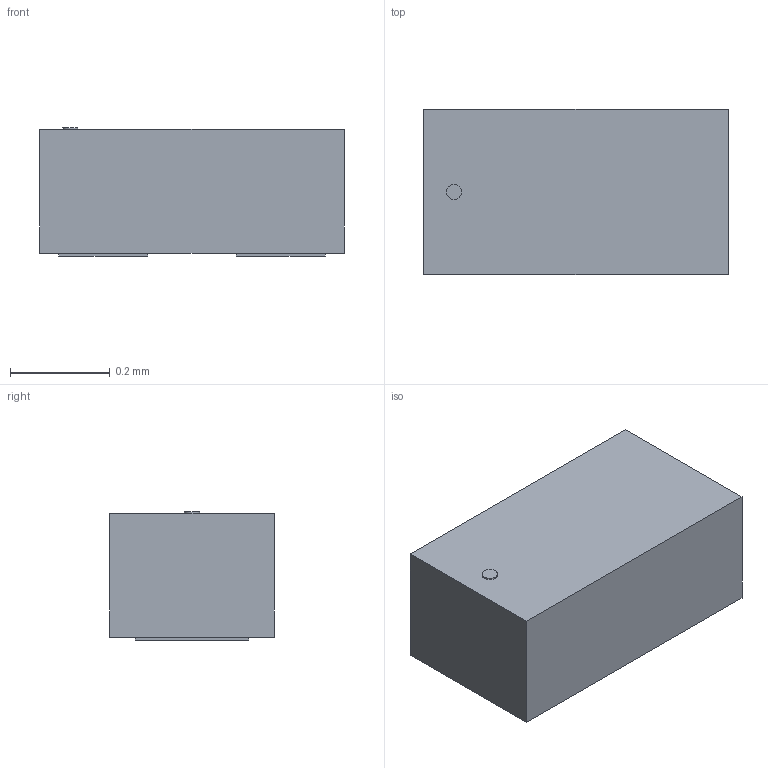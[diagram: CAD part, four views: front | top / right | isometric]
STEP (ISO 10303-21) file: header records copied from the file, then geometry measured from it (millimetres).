
FILE_DESCRIPTION(('STEP AP214'),'1');
FILE_NAME('SLP0603P2X3F_SEM','2026-09-10T05:27:49',(''),(''),'','','');
FILE_SCHEMA(('AUTOMOTIVE_DESIGN'));
Length unit declared in the file: millimetre
Products named in the file (1): product
Bounding box: 0.61 x 0.33 x 0.26 mm (x, y, z)
Volume: 0.1 mm3; surface area: 1 mm2
Topology: 4 solids, 4 shells, 21 faces, 39 edges, 26 vertices
Faces by surface type: plane 20, cylinder 1
Full cylindrical faces by diameter (mm): 0.03 x1
Entity records: 661 total; most frequent: DIRECTION 86, ORIENTED_EDGE 76, CARTESIAN_POINT 51, EDGE_CURVE 38, LINE 36, VECTOR 36, VERTEX_POINT 26, AXIS2_PLACEMENT_3D 25
